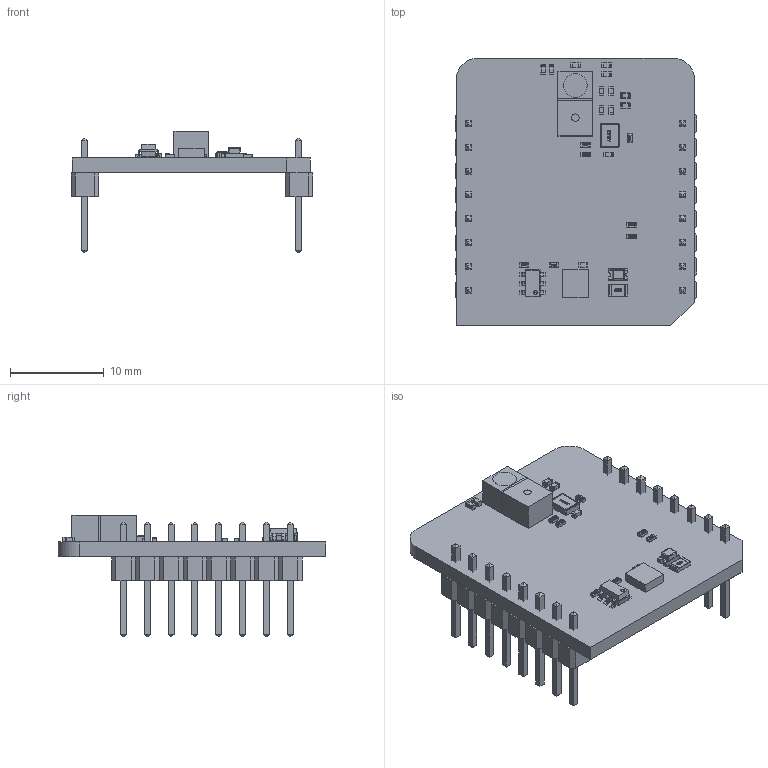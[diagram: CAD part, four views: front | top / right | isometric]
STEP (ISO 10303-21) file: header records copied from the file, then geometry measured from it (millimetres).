
FILE_DESCRIPTION(('Open CASCADE Model'),'2;1');
FILE_NAME('Open CASCADE Shape Model','2025-11-13T08:11:14',('Author'),( 'Open CASCADE'),'Open CASCADE STEP processor 7.5','Open CASCADE 7.5' ,'Unknown');
FILE_SCHEMA(('AUTOMOTIVE_DESIGN { 1 0 10303 214 1 1 1 1 }'));
Length unit declared in the file: millimetre
Products named in the file (53): PCB; Board; Open CASCADE STEP translator 7.5 1.1.1; U3; 6881888624; Cylinder; 6881888384; 6881888224; Extruded; 6881888064; U2; User Library-SOT23-6-2; U1; 6881887584; C1; User Library-SMD CAPACITOR0402; R2; User Library-R_0402; LD1; led_0805_green; R1; User Library-R_0805; R3; C3; C4; C5; C6; C7; C8; C9; C10; C11; R5; R6; R7; R8; R9; Y1; User Library-ABM10_Xtal-1; MBD1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
Assembly tree (71 placements, depth 7):
  PCB
    Board
      Open CASCADE STEP translator 7.5 1.1.1
    U3
      6881888624
        Cylinder
      6881888384
        Cylinder
      6881888224
        Extruded
      6881888064
        Extruded
    U2
      User Library-SOT23-6-2
    U1
      6881887584
        Extruded
    C1
      User Library-SMD CAPACITOR0402
    R2
      User Library-R_0402
    LD1
      led_0805_green
    R1
      User Library-R_0805
    R3
      User Library-R_0402
    C3
      User Library-SMD CAPACITOR0402
    C4
      User Library-SMD CAPACITOR0402
    C5
      User Library-SMD CAPACITOR0402
    C6
      User Library-SMD CAPACITOR0402
    C7
      User Library-SMD CAPACITOR0402
    C8
      User Library-SMD CAPACITOR0402
    C9
      User Library-SMD CAPACITOR0402
    C10
      User Library-SMD CAPACITOR0402
    C11
      User Library-SMD CAPACITOR0402
    R5
      User Library-R_0402
    R6
      User Library-R_0402
    R7
      User Library-R_0402
    R8
      User Library-R_0402
    R9
      User Library-R_0402
    Y1
      User Library-ABM10_Xtal-1
    MBD1
      Header 1x8  x2
        PCB
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Bounding box: 25.78 x 28.57 x 12.95 mm (x, y, z)
Volume: 1710.9 mm3; surface area: 3221 mm2
Topology: 66 solids, 66 shells, 2003 faces, 4893 edges, 3006 vertices
Faces by surface type: plane 1387, cylinder 263, bspline 243, sphere 110
Full cylindrical faces by diameter (mm): 0.8 x1, 2.51 x1
Entity records: 28804 total; most frequent: CARTESIAN_POINT 9125, ORIENTED_EDGE 3290, DIRECTION 2952, EDGE_CURVE 1645, LINE 1310, VECTOR 1310, VERTEX_POINT 1046, AXIS2_PLACEMENT_3D 821
